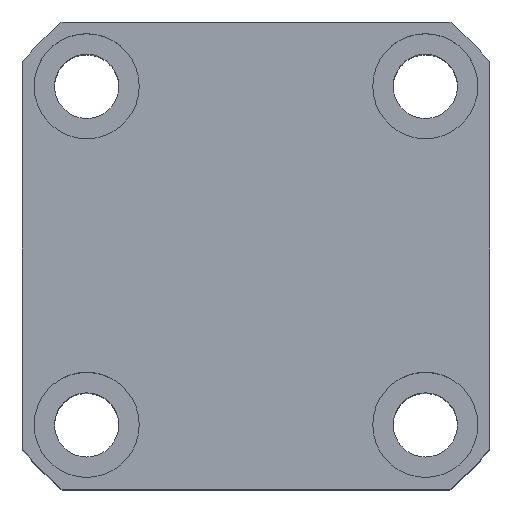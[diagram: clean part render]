
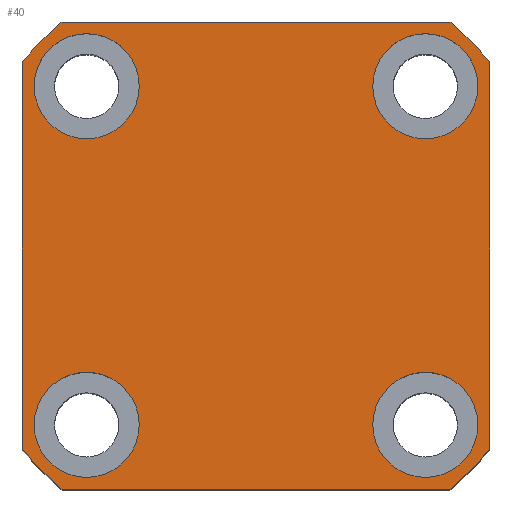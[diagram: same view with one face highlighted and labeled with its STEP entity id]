
A CAD part, top view. The second image highlights one B-rep face of the part: STEP entity #40.
In plain terms, the highlighted planar face has unit normal (0, 0, 1).
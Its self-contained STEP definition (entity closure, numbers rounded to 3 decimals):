
#40 = ADVANCED_FACE ( 'NONE', ( #15173, #6674, #6451, #1150, #16880 ), #15802, .T. ) ;
#460 = EDGE_CURVE ( 'NONE', #10060, #13932, #9919, .T. ) ;
#554 = DIRECTION ( 'NONE',  ( 1., 0., 0. ) ) ;
#595 = DIRECTION ( 'NONE',  ( 0., 0., 1. ) ) ;
#609 = CARTESIAN_POINT ( 'NONE',  ( -29., -29., 47.5 ) ) ;
#691 = ORIENTED_EDGE ( 'NONE', *, *, #11205, .F. ) ;
#1038 = VERTEX_POINT ( 'NONE', #17241 ) ;
#1131 = CARTESIAN_POINT ( 'NONE',  ( -40., 33.226, 47.5 ) ) ;
#1150 = FACE_BOUND ( 'NONE', #14515, .T. ) ;
#1221 = CARTESIAN_POINT ( 'NONE',  ( -38., 29., 47.5 ) ) ;
#1309 = VERTEX_POINT ( 'NONE', #17729 ) ;
#1332 = CARTESIAN_POINT ( 'NONE',  ( -33.226, -40., 47.5 ) ) ;
#1454 = VERTEX_POINT ( 'NONE', #1221 ) ;
#1619 = CARTESIAN_POINT ( 'NONE',  ( -29., 29., 47.5 ) ) ;
#1643 = AXIS2_PLACEMENT_3D ( 'NONE', #1619, #2921, #7164 ) ;
#1796 = CIRCLE ( 'NONE', #16577, 9. ) ;
#1825 = DIRECTION ( 'NONE',  ( 1., 0., 0. ) ) ;
#2027 = CIRCLE ( 'NONE', #3259, 9. ) ;
#2227 = ORIENTED_EDGE ( 'NONE', *, *, #5048, .F. ) ;
#2231 = EDGE_CURVE ( 'NONE', #16664, #15324, #4634, .T. ) ;
#2380 = VERTEX_POINT ( 'NONE', #5701 ) ;
#2432 = ORIENTED_EDGE ( 'NONE', *, *, #14409, .T. ) ;
#2608 = CARTESIAN_POINT ( 'NONE',  ( 29., 29., 47.5 ) ) ;
#2842 = AXIS2_PLACEMENT_3D ( 'NONE', #3036, #11514, #3100 ) ;
#2855 = VECTOR ( 'NONE', #5166, 1000. ) ;
#2921 = DIRECTION ( 'NONE',  ( 0., 0., 1. ) ) ;
#3036 = CARTESIAN_POINT ( 'NONE',  ( 0., 0., 47.5 ) ) ;
#3100 = DIRECTION ( 'NONE',  ( 1., 0., 0. ) ) ;
#3179 = EDGE_LOOP ( 'NONE', ( #7203, #11496 ) ) ;
#3259 = AXIS2_PLACEMENT_3D ( 'NONE', #609, #7623, #11798 ) ;
#3411 = AXIS2_PLACEMENT_3D ( 'NONE', #10236, #14384, #10180 ) ;
#3557 = CARTESIAN_POINT ( 'NONE',  ( -29., 29., 47.5 ) ) ;
#3993 = CIRCLE ( 'NONE', #13520, 52. ) ;
#4031 = DIRECTION ( 'NONE',  ( 1., 0., 0. ) ) ;
#4236 = CIRCLE ( 'NONE', #10062, 9. ) ;
#4286 = CARTESIAN_POINT ( 'NONE',  ( -40., 33.226, 47.5 ) ) ;
#4317 = CARTESIAN_POINT ( 'NONE',  ( -40., -33.226, 47.5 ) ) ;
#4343 = CARTESIAN_POINT ( 'NONE',  ( 0., 0., 47.5 ) ) ;
#4468 = DIRECTION ( 'NONE',  ( 0., 0., 1. ) ) ;
#4497 = EDGE_CURVE ( 'NONE', #15324, #2380, #10339, .T. ) ;
#4514 = AXIS2_PLACEMENT_3D ( 'NONE', #10244, #13065, #1825 ) ;
#4604 = EDGE_CURVE ( 'NONE', #12587, #9762, #17699, .T. ) ;
#4621 = AXIS2_PLACEMENT_3D ( 'NONE', #12880, #4468, #5883 ) ;
#4634 = CIRCLE ( 'NONE', #4621, 52. ) ;
#4784 = ORIENTED_EDGE ( 'NONE', *, *, #10600, .T. ) ;
#4865 = VECTOR ( 'NONE', #11413, 1000. ) ;
#5048 = EDGE_CURVE ( 'NONE', #1309, #9678, #14231, .T. ) ;
#5166 = DIRECTION ( 'NONE',  ( 1., 0., 0. ) ) ;
#5284 = CARTESIAN_POINT ( 'NONE',  ( 20., -29., 47.5 ) ) ;
#5701 = CARTESIAN_POINT ( 'NONE',  ( 33.226, -40., 47.5 ) ) ;
#5752 = VECTOR ( 'NONE', #6730, 1000. ) ;
#5758 = CARTESIAN_POINT ( 'NONE',  ( -20., -29., 47.5 ) ) ;
#5768 = VECTOR ( 'NONE', #9931, 1000. ) ;
#5883 = DIRECTION ( 'NONE',  ( 1., 0., 0. ) ) ;
#6451 = FACE_BOUND ( 'NONE', #3179, .T. ) ;
#6674 = FACE_BOUND ( 'NONE', #11946, .T. ) ;
#6730 = DIRECTION ( 'NONE',  ( 0., 1., 0. ) ) ;
#6911 = CIRCLE ( 'NONE', #3411, 52. ) ;
#7164 = DIRECTION ( 'NONE',  ( 1., 0., 0. ) ) ;
#7169 = ORIENTED_EDGE ( 'NONE', *, *, #15673, .F. ) ;
#7203 = ORIENTED_EDGE ( 'NONE', *, *, #10232, .F. ) ;
#7388 = ORIENTED_EDGE ( 'NONE', *, *, #4604, .T. ) ;
#7610 = DIRECTION ( 'NONE',  ( 1., 0., 0. ) ) ;
#7623 = DIRECTION ( 'NONE',  ( 0., 0., 1. ) ) ;
#7639 = DIRECTION ( 'NONE',  ( 0., 0., 1. ) ) ;
#7752 = VERTEX_POINT ( 'NONE', #10766 ) ;
#7900 = VERTEX_POINT ( 'NONE', #14438 ) ;
#7910 = EDGE_CURVE ( 'NONE', #9678, #1309, #12366, .T. ) ;
#8227 = DIRECTION ( 'NONE',  ( 0., 0., 1. ) ) ;
#8409 = ORIENTED_EDGE ( 'NONE', *, *, #12293, .T. ) ;
#8698 = CARTESIAN_POINT ( 'NONE',  ( -33.226, 40., 47.5 ) ) ;
#8760 = CARTESIAN_POINT ( 'NONE',  ( -33.226, -40., 47.5 ) ) ;
#9150 = CARTESIAN_POINT ( 'NONE',  ( 33.226, 40., 47.5 ) ) ;
#9372 = CARTESIAN_POINT ( 'NONE',  ( 40., 33.226, 47.5 ) ) ;
#9431 = EDGE_CURVE ( 'NONE', #7752, #7900, #1796, .T. ) ;
#9559 = AXIS2_PLACEMENT_3D ( 'NONE', #10182, #15934, #7610 ) ;
#9635 = DIRECTION ( 'NONE',  ( 1., 0., 0. ) ) ;
#9678 = VERTEX_POINT ( 'NONE', #5284 ) ;
#9692 = CARTESIAN_POINT ( 'NONE',  ( 0., 0., 47.5 ) ) ;
#9762 = VERTEX_POINT ( 'NONE', #9150 ) ;
#9919 = CIRCLE ( 'NONE', #9559, 9. ) ;
#9931 = DIRECTION ( 'NONE',  ( -1., 0., 0. ) ) ;
#10060 = VERTEX_POINT ( 'NONE', #5758 ) ;
#10062 = AXIS2_PLACEMENT_3D ( 'NONE', #3557, #595, #14755 ) ;
#10180 = DIRECTION ( 'NONE',  ( 1., 0., 0. ) ) ;
#10182 = CARTESIAN_POINT ( 'NONE',  ( -29., -29., 47.5 ) ) ;
#10195 = DIRECTION ( 'NONE',  ( 1., 0., 0. ) ) ;
#10232 = EDGE_CURVE ( 'NONE', #10573, #1454, #4236, .T. ) ;
#10236 = CARTESIAN_POINT ( 'NONE',  ( 0., 0., 47.5 ) ) ;
#10244 = CARTESIAN_POINT ( 'NONE',  ( 29., -29., 47.5 ) ) ;
#10339 = LINE ( 'NONE', #1332, #2855 ) ;
#10573 = VERTEX_POINT ( 'NONE', #11972 ) ;
#10600 = EDGE_CURVE ( 'NONE', #11799, #12587, #14551, .T. ) ;
#10622 = CARTESIAN_POINT ( 'NONE',  ( 40., 33.226, 47.5 ) ) ;
#10766 = CARTESIAN_POINT ( 'NONE',  ( 38., 29., 47.5 ) ) ;
#10938 = ORIENTED_EDGE ( 'NONE', *, *, #7910, .F. ) ;
#11004 = LINE ( 'NONE', #4286, #4865 ) ;
#11091 = CARTESIAN_POINT ( 'NONE',  ( 29., -29., 47.5 ) ) ;
#11205 = EDGE_CURVE ( 'NONE', #13932, #10060, #2027, .T. ) ;
#11413 = DIRECTION ( 'NONE',  ( 0., -1., 0. ) ) ;
#11496 = ORIENTED_EDGE ( 'NONE', *, *, #15788, .F. ) ;
#11514 = DIRECTION ( 'NONE',  ( 0., 0., 1. ) ) ;
#11798 = DIRECTION ( 'NONE',  ( 1., 0., 0. ) ) ;
#11799 = VERTEX_POINT ( 'NONE', #16641 ) ;
#11946 = EDGE_LOOP ( 'NONE', ( #14725, #691 ) ) ;
#11972 = CARTESIAN_POINT ( 'NONE',  ( -20., 29., 47.5 ) ) ;
#12256 = EDGE_CURVE ( 'NONE', #1038, #14642, #3993, .T. ) ;
#12284 = AXIS2_PLACEMENT_3D ( 'NONE', #11091, #13900, #4031 ) ;
#12293 = EDGE_CURVE ( 'NONE', #14642, #16664, #11004, .T. ) ;
#12366 = CIRCLE ( 'NONE', #4514, 9. ) ;
#12443 = DIRECTION ( 'NONE',  ( 0., 0., 1. ) ) ;
#12474 = ORIENTED_EDGE ( 'NONE', *, *, #16307, .T. ) ;
#12587 = VERTEX_POINT ( 'NONE', #10622 ) ;
#12604 = AXIS2_PLACEMENT_3D ( 'NONE', #2608, #12443, #16762 ) ;
#12880 = CARTESIAN_POINT ( 'NONE',  ( 0., 0., 47.5 ) ) ;
#13065 = DIRECTION ( 'NONE',  ( 0., 0., 1. ) ) ;
#13239 = ORIENTED_EDGE ( 'NONE', *, *, #2231, .T. ) ;
#13364 = ORIENTED_EDGE ( 'NONE', *, *, #4497, .T. ) ;
#13520 = AXIS2_PLACEMENT_3D ( 'NONE', #4343, #17093, #10195 ) ;
#13900 = DIRECTION ( 'NONE',  ( 0., 0., 1. ) ) ;
#13932 = VERTEX_POINT ( 'NONE', #14232 ) ;
#14231 = CIRCLE ( 'NONE', #12284, 9. ) ;
#14232 = CARTESIAN_POINT ( 'NONE',  ( -38., -29., 47.5 ) ) ;
#14384 = DIRECTION ( 'NONE',  ( 0., 0., 1. ) ) ;
#14409 = EDGE_CURVE ( 'NONE', #2380, #11799, #6911, .T. ) ;
#14438 = CARTESIAN_POINT ( 'NONE',  ( 20., 29., 47.5 ) ) ;
#14515 = EDGE_LOOP ( 'NONE', ( #17978, #7169 ) ) ;
#14551 = LINE ( 'NONE', #9372, #5752 ) ;
#14642 = VERTEX_POINT ( 'NONE', #1131 ) ;
#14725 = ORIENTED_EDGE ( 'NONE', *, *, #460, .F. ) ;
#14755 = DIRECTION ( 'NONE',  ( 1., 0., 0. ) ) ;
#15033 = ORIENTED_EDGE ( 'NONE', *, *, #12256, .T. ) ;
#15173 = FACE_BOUND ( 'NONE', #16063, .T. ) ;
#15324 = VERTEX_POINT ( 'NONE', #8760 ) ;
#15404 = AXIS2_PLACEMENT_3D ( 'NONE', #9692, #8227, #9635 ) ;
#15585 = LINE ( 'NONE', #8698, #5768 ) ;
#15605 = CIRCLE ( 'NONE', #1643, 9. ) ;
#15673 = EDGE_CURVE ( 'NONE', #7900, #7752, #17107, .T. ) ;
#15788 = EDGE_CURVE ( 'NONE', #1454, #10573, #15605, .T. ) ;
#15802 = PLANE ( 'NONE',  #2842 ) ;
#15934 = DIRECTION ( 'NONE',  ( 0., 0., 1. ) ) ;
#16063 = EDGE_LOOP ( 'NONE', ( #2227, #10938 ) ) ;
#16157 = EDGE_LOOP ( 'NONE', ( #15033, #8409, #13239, #13364, #2432, #4784, #7388, #12474 ) ) ;
#16307 = EDGE_CURVE ( 'NONE', #9762, #1038, #15585, .T. ) ;
#16577 = AXIS2_PLACEMENT_3D ( 'NONE', #17416, #7639, #554 ) ;
#16641 = CARTESIAN_POINT ( 'NONE',  ( 40., -33.226, 47.5 ) ) ;
#16664 = VERTEX_POINT ( 'NONE', #4317 ) ;
#16762 = DIRECTION ( 'NONE',  ( 1., 0., 0. ) ) ;
#16880 = FACE_OUTER_BOUND ( 'NONE', #16157, .T. ) ;
#17093 = DIRECTION ( 'NONE',  ( 0., 0., 1. ) ) ;
#17107 = CIRCLE ( 'NONE', #12604, 9. ) ;
#17241 = CARTESIAN_POINT ( 'NONE',  ( -33.226, 40., 47.5 ) ) ;
#17416 = CARTESIAN_POINT ( 'NONE',  ( 29., 29., 47.5 ) ) ;
#17699 = CIRCLE ( 'NONE', #15404, 52. ) ;
#17729 = CARTESIAN_POINT ( 'NONE',  ( 38., -29., 47.5 ) ) ;
#17978 = ORIENTED_EDGE ( 'NONE', *, *, #9431, .F. ) ;
